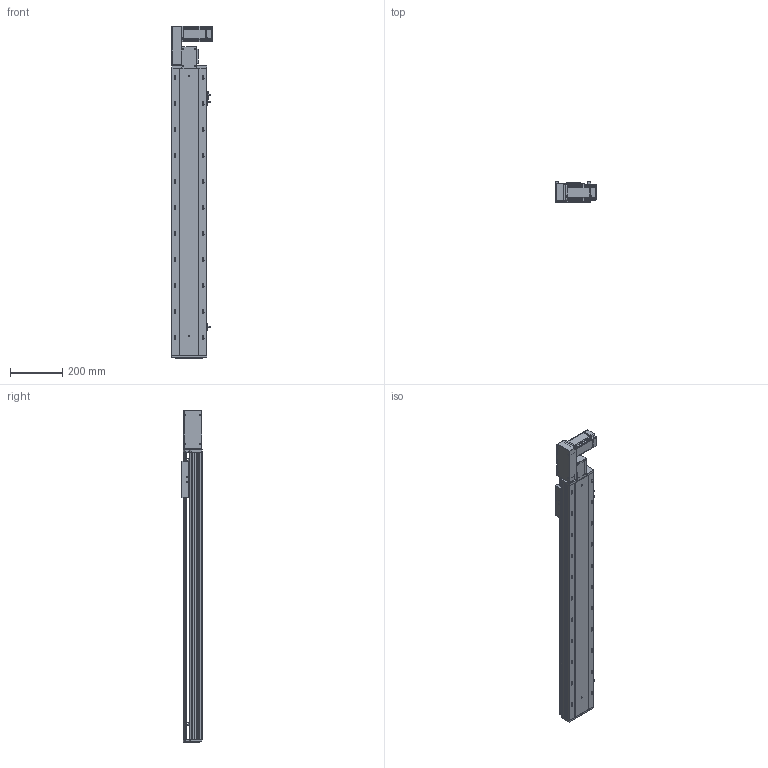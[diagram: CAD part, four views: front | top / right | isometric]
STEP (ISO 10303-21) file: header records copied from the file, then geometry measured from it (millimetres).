
FILE_DESCRIPTION (( 'STEP AP203' ), '1' );
FILE_NAME ('RY140-T-300-LK.SLDASM_850.step', '2021-03-01T06:35:21', ( '盈信电脑' ), ( '东莞市道滘镇水果街19号' ), 'SwSTEP 2.0', 'SolidWorks 2012', '' );
FILE_SCHEMA (( 'CONFIG_CONTROL_DESIGN' ));
Length unit declared in the file: millimetre
Products named in the file (18): RY140-T-300-LK.SLDASM_850; 滅袉蝶18-10; RY140-T翋肮謫裔啣; RY140-T萇儂欶; RY120-T蹟翐M4; RY120-T主同步轮轴承压盖; RY140-T萇儂假蚾啣; 15; 侂狟400W侜督萇儂; RY120-T肮祭湍揤踡輸2; RY140-T翋肮祭謫盓傅釱; RY120-T肮祭湍揤踡輸1; 覜茼ん672; RY120外置感应片(140共用）; RY140綴裔啣; RY140肮祭謫臏賑輸; RY140-T-300-DL倰第菁釱_850; RY140-T-300-DL倰第奻裔啣_850
Assembly tree (23 placements, depth 3):
  RY140-T-300-LK.SLDASM_850
    RY140-T-300-DL倰第菁釱_850
    RY140肮祭謫臏賑輸
    RY140-T-300-DL倰第奻裔啣_850
    RY140綴裔啣
    覜茼ん672  x3
    RY120外置感应片(140共用）
    RY120-T肮祭湍揤踡輸2
    RY120-T肮祭湍揤踡輸1
    RY140-T翋肮祭謫盓傅釱
    RY140-T萇儂假蚾啣
    侂狟400W侜督萇儂
      15
    RY120-T主同步轮轴承压盖
    RY120-T蹟翐M4  x4
    RY140-T萇儂欶
    滅袉蝶18-10  x2
    RY140-T翋肮謫裔啣
Bounding box: 157 x 78 x 1276.5 mm (x, y, z)
Volume: 3631406.8 mm3; surface area: 1378908.4 mm2
Topology: 22 solids, 22 shells, 2711 faces, 7477 edges, 4808 vertices
Faces by surface type: plane 1381, cylinder 1020, cone 210, bspline 100
Entity records: 86517 total; most frequent: CARTESIAN_POINT 21295, ORIENTED_EDGE 13458, DIRECTION 12705, EDGE_CURVE 6729, VERTEX_POINT 4407, LINE 4257, VECTOR 4257, AXIS2_PLACEMENT_3D 4224
